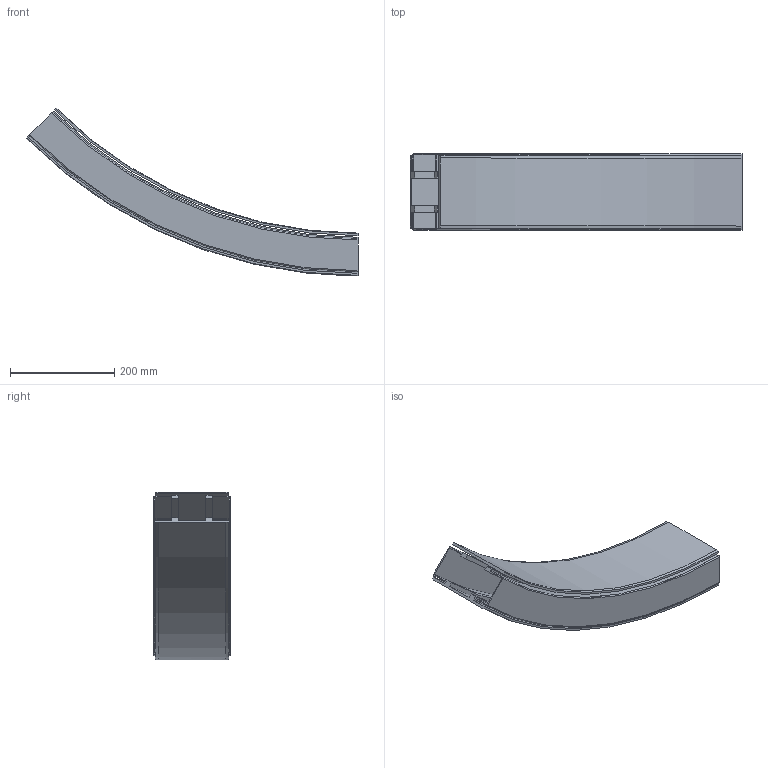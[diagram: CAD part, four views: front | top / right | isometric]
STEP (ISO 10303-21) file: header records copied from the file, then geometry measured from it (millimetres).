
FILE_DESCRIPTION(/* description */ ('VERTIKALKURVA S540 R860'),/* implementation_level */ '2;1');
FILE_NAME(/* name */ '540-5695+140-2000-NER-01.stp',/* time_stamp */ '2022-09-21T11:25:33+02:00',/* author */ ('Mathias.Dore'),/* organization */ ('CARRYLINE'),/* preprocessor_version */ 'ST-DEVELOPER v19.2',/* originating_system */ 'Autodesk Inventor 2023',/* authorisation */ '');
FILE_SCHEMA (('AUTOMOTIVE_DESIGN { 1 0 10303 214 3 1 1 }'));
Length unit declared in the file: millimetre
Products named in the file (1): 540-5695+140-2000-NER-01
Bounding box: 636.04 x 146 x 321.44 mm (x, y, z)
Volume: 1548206.7 mm3; surface area: 804288.6 mm2
Topology: 2 solids, 2 shells, 87 faces, 234 edges, 156 vertices
Faces by surface type: plane 40, cylinder 25, bspline 14, cone 4, torus 4
Entity records: 7369 total; most frequent: CARTESIAN_POINT 5170, ORIENTED_EDGE 468, DIRECTION 408, EDGE_CURVE 234, VERTEX_POINT 156, AXIS2_PLACEMENT_3D 141, LINE 126, VECTOR 126
